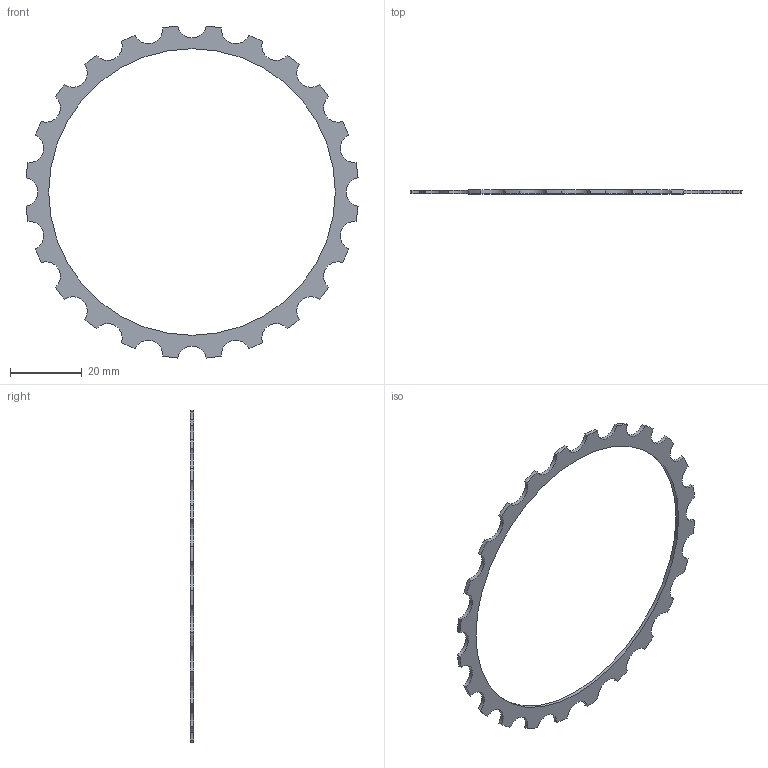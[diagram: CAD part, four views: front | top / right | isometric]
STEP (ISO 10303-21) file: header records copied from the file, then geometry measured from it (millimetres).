
FILE_DESCRIPTION(/* description */ (''),/* implementation_level */ '2;1');
FILE_NAME(/* name */ '\\192.168.3.8\kumagai\Develop\CAD\NakataOmni\DriveUnitR3\Ratainer_SB_LC_JIG.stp',/* time_stamp */ '2024-05-24T08:17:08+09:00',/* author */ ('kumagai'),/* organization */ (''),/* preprocessor_version */ 'ST-DEVELOPER v19',/* originating_system */ 'Autodesk Inventor 2023',/* authorisation */ '');
FILE_SCHEMA (('AUTOMOTIVE_DESIGN { 1 0 10303 214 3 1 1 }'));
Length unit declared in the file: millimetre
Products named in the file (1): Ratainer_IG_SB
Bounding box: 92.66 x 1 x 92.66 mm (x, y, z)
Volume: 1269.6 mm3; surface area: 3162.5 mm2
Topology: 1 solids, 1 shells, 51 faces, 147 edges, 98 vertices
Faces by surface type: cylinder 49, plane 2
Full cylindrical faces by diameter (mm): 80 x1
Entity records: 1786 total; most frequent: DIRECTION 349, CARTESIAN_POINT 297, ORIENTED_EDGE 294, AXIS2_PLACEMENT_3D 150, EDGE_CURVE 147, CIRCLE 98, VERTEX_POINT 98, EDGE_LOOP 53
